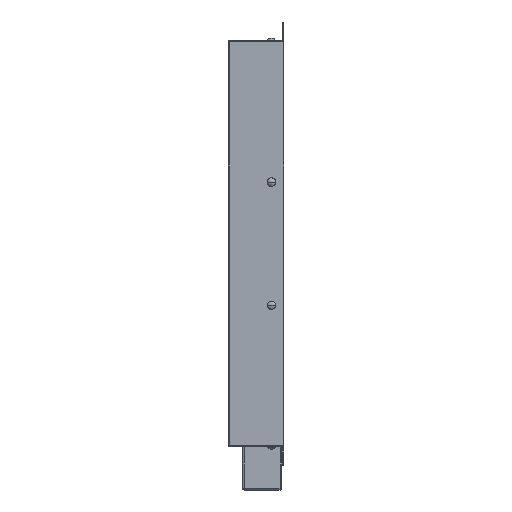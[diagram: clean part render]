
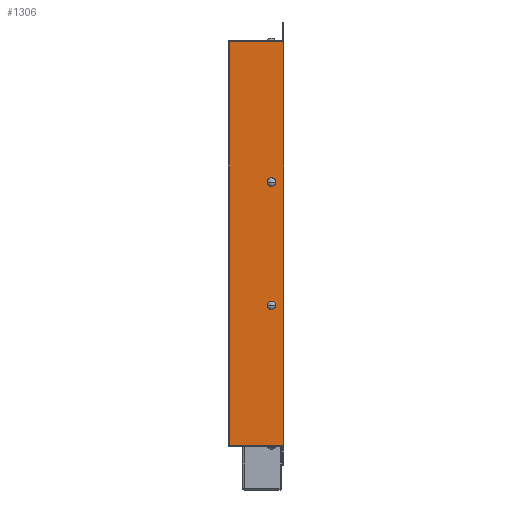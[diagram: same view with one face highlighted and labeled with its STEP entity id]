
A CAD part, left-side view. The second image highlights one B-rep face of the part: STEP entity #1306.
In plain terms, the highlighted planar face has unit normal (-1, 0, 0).
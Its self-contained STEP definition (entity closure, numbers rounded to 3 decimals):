
#61 = DIRECTION ( 'NONE',  ( 0., 0., -1. ) ) ;
#73 = CARTESIAN_POINT ( 'NONE',  ( -165., 511.69, 164. ) ) ;
#173 = DIRECTION ( 'NONE',  ( 0., 0., -1. ) ) ;
#278 = EDGE_CURVE ( 'NONE', #5709, #1038, #3381, .T. ) ;
#343 = CARTESIAN_POINT ( 'NONE',  ( -165., 0., 164. ) ) ;
#424 = DIRECTION ( 'NONE',  ( -1., 0., 0. ) ) ;
#452 = DIRECTION ( 'NONE',  ( -1., 0., 0. ) ) ;
#500 = AXIS2_PLACEMENT_3D ( 'NONE', #5755, #4401, #1717 ) ;
#563 = VERTEX_POINT ( 'NONE', #5299 ) ;
#630 = VERTEX_POINT ( 'NONE', #2231 ) ;
#654 = ORIENTED_EDGE ( 'NONE', *, *, #4089, .F. ) ;
#693 = VECTOR ( 'NONE', #968, 1000. ) ;
#768 = CARTESIAN_POINT ( 'NONE',  ( -165., 511.69, -165. ) ) ;
#968 = DIRECTION ( 'NONE',  ( 0., 0., -1. ) ) ;
#976 = VERTEX_POINT ( 'NONE', #5485 ) ;
#1037 = CARTESIAN_POINT ( 'NONE',  ( -165., 44., 164. ) ) ;
#1038 = VERTEX_POINT ( 'NONE', #1037 ) ;
#1058 = EDGE_CURVE ( 'NONE', #4300, #4229, #2511, .T. ) ;
#1113 = CARTESIAN_POINT ( 'NONE',  ( -165., 0., -164. ) ) ;
#1218 = LINE ( 'NONE', #4362, #4925 ) ;
#1306 = ADVANCED_FACE ( 'NONE', ( #3001, #1680, #2237 ), #4449, .T. ) ;
#1327 = ORIENTED_EDGE ( 'NONE', *, *, #5531, .T. ) ;
#1426 = ORIENTED_EDGE ( 'NONE', *, *, #1058, .F. ) ;
#1476 = DIRECTION ( 'NONE',  ( -1., 0., 0. ) ) ;
#1621 = ORIENTED_EDGE ( 'NONE', *, *, #3703, .F. ) ;
#1662 = VECTOR ( 'NONE', #61, 1000. ) ;
#1680 = FACE_BOUND ( 'NONE', #4737, .T. ) ;
#1717 = DIRECTION ( 'NONE',  ( 0., 0., -1. ) ) ;
#1810 = CARTESIAN_POINT ( 'NONE',  ( -165., 10., 53.45 ) ) ;
#1831 = CARTESIAN_POINT ( 'NONE',  ( -165., 10., 50. ) ) ;
#2044 = ORIENTED_EDGE ( 'NONE', *, *, #278, .T. ) ;
#2091 = ORIENTED_EDGE ( 'NONE', *, *, #2479, .F. ) ;
#2128 = AXIS2_PLACEMENT_3D ( 'NONE', #768, #424, #3531 ) ;
#2231 = CARTESIAN_POINT ( 'NONE',  ( -165., 10., -46.55 ) ) ;
#2237 = FACE_OUTER_BOUND ( 'NONE', #5370, .T. ) ;
#2283 = LINE ( 'NONE', #4084, #1662 ) ;
#2336 = CARTESIAN_POINT ( 'NONE',  ( -165., 10., -50. ) ) ;
#2363 = EDGE_LOOP ( 'NONE', ( #654, #1426 ) ) ;
#2479 = EDGE_CURVE ( 'NONE', #976, #630, #3459, .T. ) ;
#2511 = CIRCLE ( 'NONE', #4589, 3.45 ) ;
#2687 = EDGE_CURVE ( 'NONE', #563, #4403, #1218, .T. ) ;
#2803 = DIRECTION ( 'NONE',  ( 0., 0., -1. ) ) ;
#2846 = CARTESIAN_POINT ( 'NONE',  ( -165., 0., -165. ) ) ;
#2924 = DIRECTION ( 'NONE',  ( 0., -1., 0. ) ) ;
#3001 = FACE_BOUND ( 'NONE', #2363, .T. ) ;
#3203 = EDGE_CURVE ( 'NONE', #630, #976, #5121, .T. ) ;
#3250 = CARTESIAN_POINT ( 'NONE',  ( -165., 10., 46.55 ) ) ;
#3381 = LINE ( 'NONE', #73, #5256 ) ;
#3459 = CIRCLE ( 'NONE', #5543, 3.45 ) ;
#3531 = DIRECTION ( 'NONE',  ( 0., 0., 1. ) ) ;
#3585 = CARTESIAN_POINT ( 'NONE',  ( -165., 10., -50. ) ) ;
#3683 = CIRCLE ( 'NONE', #500, 3.45 ) ;
#3703 = EDGE_CURVE ( 'NONE', #5709, #4403, #4207, .T. ) ;
#3795 = DIRECTION ( 'NONE',  ( 0., 1., 0. ) ) ;
#3814 = DIRECTION ( 'NONE',  ( -1., 0., 0. ) ) ;
#4084 = CARTESIAN_POINT ( 'NONE',  ( -165., 44., -165. ) ) ;
#4089 = EDGE_CURVE ( 'NONE', #4229, #4300, #3683, .T. ) ;
#4207 = LINE ( 'NONE', #2846, #693 ) ;
#4229 = VERTEX_POINT ( 'NONE', #3250 ) ;
#4300 = VERTEX_POINT ( 'NONE', #1810 ) ;
#4362 = CARTESIAN_POINT ( 'NONE',  ( -165., 511.69, -164. ) ) ;
#4401 = DIRECTION ( 'NONE',  ( -1., 0., 0. ) ) ;
#4403 = VERTEX_POINT ( 'NONE', #1113 ) ;
#4449 = PLANE ( 'NONE',  #2128 ) ;
#4589 = AXIS2_PLACEMENT_3D ( 'NONE', #1831, #1476, #2803 ) ;
#4737 = EDGE_LOOP ( 'NONE', ( #2091, #5678 ) ) ;
#4816 = ORIENTED_EDGE ( 'NONE', *, *, #2687, .T. ) ;
#4925 = VECTOR ( 'NONE', #2924, 1000. ) ;
#5121 = CIRCLE ( 'NONE', #5218, 3.45 ) ;
#5218 = AXIS2_PLACEMENT_3D ( 'NONE', #3585, #452, #5337 ) ;
#5256 = VECTOR ( 'NONE', #3795, 1000. ) ;
#5299 = CARTESIAN_POINT ( 'NONE',  ( -165., 44., -164. ) ) ;
#5337 = DIRECTION ( 'NONE',  ( 0., 0., -1. ) ) ;
#5370 = EDGE_LOOP ( 'NONE', ( #1621, #2044, #1327, #4816 ) ) ;
#5485 = CARTESIAN_POINT ( 'NONE',  ( -165., 10., -53.45 ) ) ;
#5531 = EDGE_CURVE ( 'NONE', #1038, #563, #2283, .T. ) ;
#5543 = AXIS2_PLACEMENT_3D ( 'NONE', #2336, #3814, #173 ) ;
#5678 = ORIENTED_EDGE ( 'NONE', *, *, #3203, .F. ) ;
#5709 = VERTEX_POINT ( 'NONE', #343 ) ;
#5755 = CARTESIAN_POINT ( 'NONE',  ( -165., 10., 50. ) ) ;
